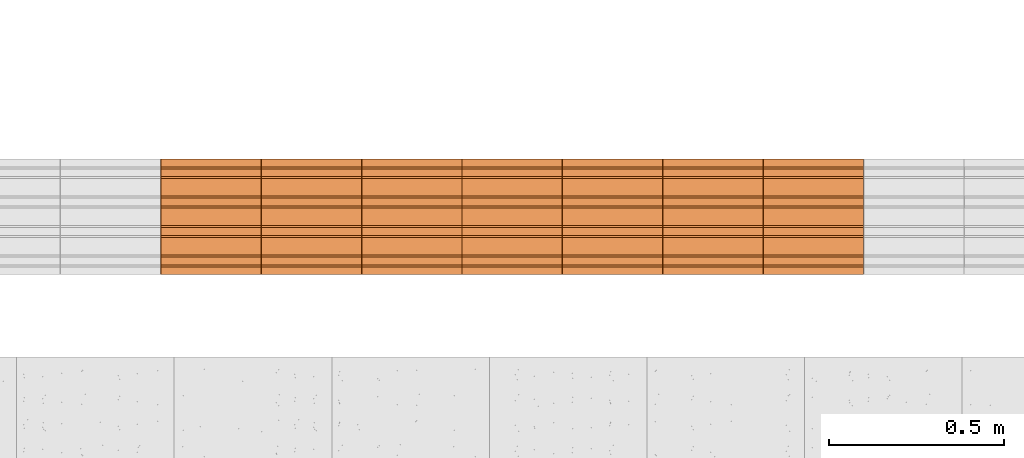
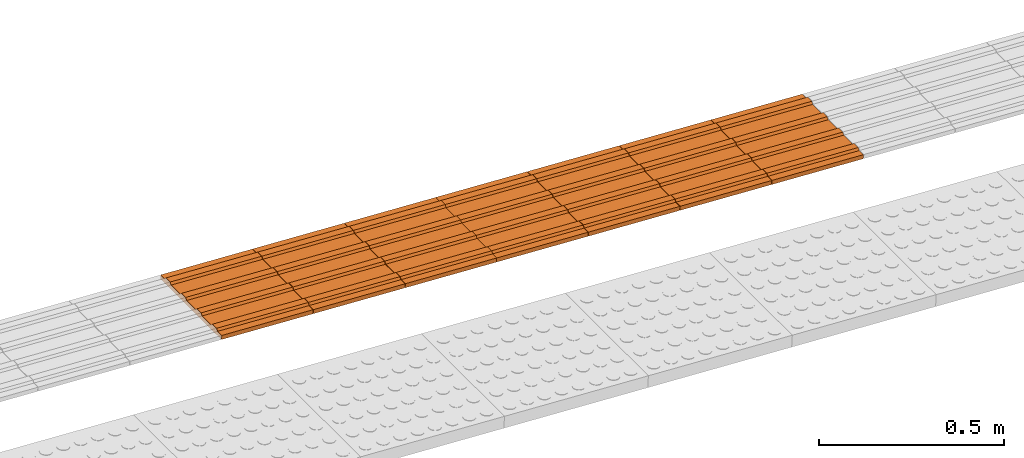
# One storey, part 189 of 237: 7 proxies.
"""IFC2X3 building model written with IfcOpenShell, lengths in millimetres."""

from ifc_helpers import new_model, entity, si_unit, converted_unit, derived_unit, money_unit, direction, frame, origin_with_axes, place, context, subcontext, project, spatial, open_shell, surface_model, source, transform, mapped, type_object, element, save


model = new_model("IFC2X3")

# Units and contexts
model_context = context("Model", 3, precision=0.01, world=origin_with_axes(), true_north=direction((0.0, 1.0)))
body_context = subcontext(model_context, "Body", "Model", "MODEL_VIEW")
ifc_project = project(units=[si_unit("LENGTHUNIT", "METRE", prefix="MILLI"), si_unit("AREAUNIT", "SQUARE_METRE"), si_unit("VOLUMEUNIT", "CUBIC_METRE"), converted_unit("PLANEANGLEUNIT", "DEGREE", entity("IfcPlaneAngleMeasure", 0.0174532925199), si_unit("PLANEANGLEUNIT", "RADIAN"), dimensions=[0, 0, 0, 0, 0, 0, 0]), money_unit("USD"), converted_unit("TIMEUNIT", "Year", entity("IfcTimeMeasure", 31556926.0), si_unit("TIMEUNIT", "SECOND"), dimensions=[0, 0, 1, 0, 0, 0, 0]), si_unit("MASSUNIT", "GRAM", prefix="KILO"), si_unit("THERMODYNAMICTEMPERATUREUNIT", "DEGREE_CELSIUS"), si_unit("LUMINOUSINTENSITYUNIT", "LUMEN"), si_unit("ENERGYUNIT", "JOULE", prefix="MEGA"), derived_unit("THERMALCONDUCTANCEUNIT", [(si_unit("POWERUNIT", "WATT"), 1), (si_unit("LENGTHUNIT", "METRE"), -1), (si_unit("THERMODYNAMICTEMPERATUREUNIT", "KELVIN"), -1)]), derived_unit("SPECIFICHEATCAPACITYUNIT", [(si_unit("ENERGYUNIT", "JOULE"), 1), (si_unit("MASSUNIT", "GRAM", prefix="KILO"), -1), (si_unit("THERMODYNAMICTEMPERATUREUNIT", "KELVIN"), -1)]), derived_unit("MASSDENSITYUNIT", [(si_unit("MASSUNIT", "GRAM", prefix="KILO"), 1), (si_unit("VOLUMEUNIT", "CUBIC_METRE"), -1)])], contexts=[model_context])

# Site, building, storey
site_placement = place(None, origin_with_axes())
site = spatial("IfcSite", under=ifc_project, at=site_placement, Name="Local", CompositionType="ELEMENT")
building_placement = place(site_placement, origin_with_axes())
building = spatial("IfcBuilding", under=site, at=building_placement, Name="Construção", CompositionType="ELEMENT")
storey_placement = place(building_placement, origin_with_axes())
storey = spatial("IfcBuildingStorey", under=building, at=storey_placement, Name="Pavimento Térreo", CompositionType="ELEMENT", Elevation=0.0)

# Proxies
building_element_proxy_type = type_object("IfcBuildingElementProxyType", Name="Piso Direcional 27", PredefinedType="NOTDEFINED")
shared_shape = source(origin_with_axes(), body_context, "Body", "SurfaceModel", [
    surface_model("IfcShellBasedSurfaceModel", [(-0.210134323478, -47.258225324, 4.02303628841), (285.108160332, -47.258225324, 18.9260007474), (284.760415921, -41.665004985, 25.5835917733), (-0.557878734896, -41.665004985, 10.6806273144)], [open_shell([[[0, 1, 2, 3]]])]),
    surface_model("IfcShellBasedSurfaceModel", [(285.803649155, -153.529411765, 5.61081869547), (285.803649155, 176.470588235, 5.61081869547), (285.108160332, 176.470588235, 18.9260007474), (285.108160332, 154.097706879, 18.9260007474), (284.760415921, 148.50448654, 25.5835917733), (284.760415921, 126.131605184, 25.5835917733), (285.108160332, 120.538384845, 18.9260007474), (285.108160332, 70.1994017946, 18.9260007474), (284.760415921, 64.6061814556, 25.5835917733), (284.760415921, 42.2333000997, 25.5835917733), (285.108160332, 36.6400797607, 18.9260007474), (285.108160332, -13.6989032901, 18.9260007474), (284.760415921, -19.2921236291, 25.5835917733), (284.760415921, -41.665004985, 25.5835917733), (285.108160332, -47.258225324, 18.9260007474), (285.108160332, -97.5972083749, 18.9260007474), (284.760415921, -103.190428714, 25.5835917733), (284.760415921, -125.56331007, 25.5835917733), (285.108160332, -131.156530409, 18.9260007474), (285.108160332, -153.529411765, 18.9260007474)], [open_shell([[[0, 1, 2, 3, 4, 5, 6, 7, 8, 9, 10, 11, 12, 13, 14, 15, 16, 17, 18, 19]]])]),
    surface_model("IfcShellBasedSurfaceModel", [(-0.557878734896, -19.2921236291, 10.6806273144), (284.760415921, -19.2921236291, 25.5835917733), (285.108160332, -13.6989032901, 18.9260007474), (-0.210134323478, -13.6989032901, 4.02303628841)], [open_shell([[[0, 1, 2, 3]]])]),
    surface_model("IfcShellBasedSurfaceModel", [(-0.557878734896, -103.190428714, 10.6806273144), (284.760415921, -103.190428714, 25.5835917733), (285.108160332, -97.5972083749, 18.9260007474), (-0.210134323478, -97.5972083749, 4.02303628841)], [open_shell([[[0, 1, 2, 3]]])]),
    surface_model("IfcShellBasedSurfaceModel", [(-0.557878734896, 64.6061814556, 10.6806273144), (284.760415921, 64.6061814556, 25.5835917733), (285.108160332, 70.1994017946, 18.9260007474), (-0.210134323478, 70.1994017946, 4.02303628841)], [open_shell([[[0, 1, 2, 3]]])]),
    surface_model("IfcShellBasedSurfaceModel", [(-0.210134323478, 36.6400797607, 4.02303628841), (285.108160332, 36.6400797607, 18.9260007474), (284.760415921, 42.2333000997, 25.5835917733), (-0.557878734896, 42.2333000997, 10.6806273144)], [open_shell([[[0, 1, 2, 3]]])]),
    surface_model("IfcShellBasedSurfaceModel", [(-0.210134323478, -131.156530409, 4.02303628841), (285.108160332, -131.156530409, 18.9260007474), (284.760415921, -125.56331007, 25.5835917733), (-0.557878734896, -125.56331007, 10.6806273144)], [open_shell([[[0, 1, 2, 3]]])]),
    surface_model("IfcShellBasedSurfaceModel", [(-0.210134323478, 176.470588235, 4.02303628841), (-0.210134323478, 154.097706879, 4.02303628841), (285.108160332, 154.097706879, 18.9260007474), (285.108160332, 176.470588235, 18.9260007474)], [open_shell([[[0, 1, 2, 3]]])]),
    surface_model("IfcShellBasedSurfaceModel", [(-0.210134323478, 120.538384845, 4.02303628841), (285.108160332, 120.538384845, 18.9260007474), (284.760415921, 126.131605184, 25.5835917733), (-0.557878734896, 126.131605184, 10.6806273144)], [open_shell([[[0, 1, 2, 3]]])]),
    surface_model("IfcShellBasedSurfaceModel", [(-0.557878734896, 148.50448654, 10.6806273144), (284.760415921, 148.50448654, 25.5835917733), (285.108160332, 154.097706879, 18.9260007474), (-0.210134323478, 154.097706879, 4.02303628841)], [open_shell([[[0, 1, 2, 3]]])]),
    surface_model("IfcShellBasedSurfaceModel", [(-0.210134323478, 36.6400797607, 4.02303628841), (-0.210134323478, -13.6989032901, 4.02303628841), (285.108160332, -13.6989032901, 18.9260007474), (285.108160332, 36.6400797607, 18.9260007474)], [open_shell([[[0, 1, 2, 3]]])]),
    surface_model("IfcShellBasedSurfaceModel", [(-0.210134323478, 120.538384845, 4.02303628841), (-0.210134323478, 70.1994017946, 4.02303628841), (285.108160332, 70.1994017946, 18.9260007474), (285.108160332, 120.538384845, 18.9260007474)], [open_shell([[[0, 1, 2, 3]]])]),
    surface_model("IfcShellBasedSurfaceModel", [(-0.557878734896, 148.50448654, 10.6806273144), (-0.557878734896, 126.131605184, 10.6806273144), (284.760415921, 126.131605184, 25.5835917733), (284.760415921, 148.50448654, 25.5835917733)], [open_shell([[[0, 1, 2, 3]]])]),
    surface_model("IfcShellBasedSurfaceModel", [(-0.210134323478, 120.538384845, 4.02303628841), (-0.557878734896, 126.131605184, 10.6806273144), (-0.557878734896, 148.50448654, 10.6806273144), (-0.210134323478, 154.097706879, 4.02303628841), (-0.210134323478, 176.470588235, 4.02303628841), (0.48535449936, 176.470588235, -9.29214576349), (0.48535449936, -153.529411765, -9.29214576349), (-0.210134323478, -153.529411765, 4.02303628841), (-0.210134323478, -131.156530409, 4.02303628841), (-0.557878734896, -125.56331007, 10.6806273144), (-0.557878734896, -103.190428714, 10.6806273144), (-0.210134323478, -97.5972083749, 4.02303628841), (-0.210134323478, -47.258225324, 4.02303628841), (-0.557878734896, -41.665004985, 10.6806273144), (-0.557878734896, -19.2921236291, 10.6806273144), (-0.210134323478, -13.6989032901, 4.02303628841), (-0.210134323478, 36.6400797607, 4.02303628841), (-0.557878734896, 42.2333000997, 10.6806273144), (-0.557878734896, 64.6061814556, 10.6806273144), (-0.210134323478, 70.1994017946, 4.02303628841)], [open_shell([[[0, 1, 2, 3, 4, 5, 6, 7, 8, 9, 10, 11, 12, 13, 14, 15, 16, 17, 18, 19]]])]),
    surface_model("IfcShellBasedSurfaceModel", [(284.760415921, -41.665004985, 25.5835917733), (284.760415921, -19.2921236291, 25.5835917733), (-0.557878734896, -19.2921236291, 10.6806273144), (-0.557878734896, -41.665004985, 10.6806273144)], [open_shell([[[0, 1, 2, 3]]])]),
    surface_model("IfcShellBasedSurfaceModel", [(-0.210134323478, -47.258225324, 4.02303628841), (-0.210134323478, -97.5972083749, 4.02303628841), (285.108160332, -97.5972083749, 18.9260007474), (285.108160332, -47.258225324, 18.9260007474)], [open_shell([[[0, 1, 2, 3]]])]),
    surface_model("IfcShellBasedSurfaceModel", [(284.760415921, 42.2333000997, 25.5835917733), (284.760415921, 64.6061814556, 25.5835917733), (-0.557878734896, 64.6061814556, 10.6806273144), (-0.557878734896, 42.2333000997, 10.6806273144)], [open_shell([[[0, 1, 2, 3]]])]),
    surface_model("IfcShellBasedSurfaceModel", [(284.760415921, -125.56331007, 25.5835917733), (284.760415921, -103.190428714, 25.5835917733), (-0.557878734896, -103.190428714, 10.6806273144), (-0.557878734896, -125.56331007, 10.6806273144)], [open_shell([[[0, 1, 2, 3]]])]),
    surface_model("IfcShellBasedSurfaceModel", [(285.803649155, 176.470588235, 5.61081869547), (0.48535449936, 176.470588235, -9.29214576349), (-0.210134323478, 176.470588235, 4.02303628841), (285.108160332, 176.470588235, 18.9260007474)], [open_shell([[[0, 1, 2, 3]]])]),
    surface_model("IfcShellBasedSurfaceModel", [(285.803649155, -153.529411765, 5.61081869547), (0.48535449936, -153.529411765, -9.29214576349), (0.48535449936, 176.470588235, -9.29214576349), (285.803649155, 176.470588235, 5.61081869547)], [open_shell([[[0, 1, 2, 3]]])]),
    surface_model("IfcShellBasedSurfaceModel", [(285.108160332, -153.529411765, 18.9260007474), (285.108160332, -131.156530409, 18.9260007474), (-0.210134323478, -131.156530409, 4.02303628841), (-0.210134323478, -153.529411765, 4.02303628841)], [open_shell([[[0, 1, 2, 3]]])]),
    surface_model("IfcShellBasedSurfaceModel", [(0.48535449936, -153.529411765, -9.29214576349), (285.803649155, -153.529411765, 5.61081869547), (285.108160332, -153.529411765, 18.9260007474), (-0.210134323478, -153.529411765, 4.02303628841)], [open_shell([[[0, 1, 2, 3]]])]),
])
for number, where, z_axis, x_axis, name in (
    (1, (123880.722012, 10834.0941893, -7414.83402817), (0.0, 0.0, 1.0), (-1.0, 0.0, 0.0), "Objeto-0055"),
    (2, (123594.117468, 10834.0941893, -7399.86387938), (0.0, 0.0, 1.0), (-1.0, 0.0, 0.0), "Objeto-0055"),
    (3, (123307.512925, 10834.0941893, -7384.89373058), (0.0, 0.0, 1.0), (-1.0, 0.0, 0.0), "Objeto-0055"),
    (4, (123020.908381, 10834.0941893, -7369.92358179), (0.0, 0.0, 1.0), (-1.0, 0.0, 0.0), "Objeto-0055"),
    (5, (122735.590087, 10834.0941893, -7355.02061733), (0.0, 0.0, 1.0), (-1.0, 0.0, 0.0), "Objeto-0055"),
    (6, (122448.985543, 10834.0941893, -7340.05046853), (0.0, 0.0, 1.0), (-1.0, 0.0, 0.0), "Objeto-0055"),
    (7, (122162.381, 10834.0941893, -7325.08031974), (0.0, 0.0, 1.0), (-1.0, 0.0, 0.0), "Objeto-0055"),
):
    element("IfcBuildingElementProxy", number, at=place(storey_placement, frame(where, z_axis=z_axis, x_axis=x_axis)), inside=storey, type_object=building_element_proxy_type, Name=name, context=body_context, shape_type="MappedRepresentation", body=[
        mapped(shared_shape, transform((0.0, 0.0, 0.0))),
    ])

save(model, "model.ifc")
